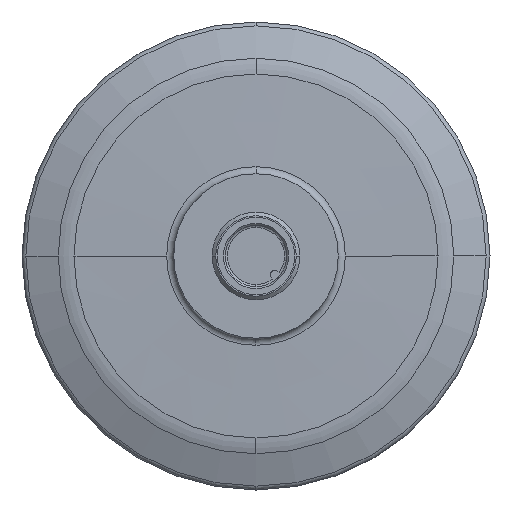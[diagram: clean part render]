
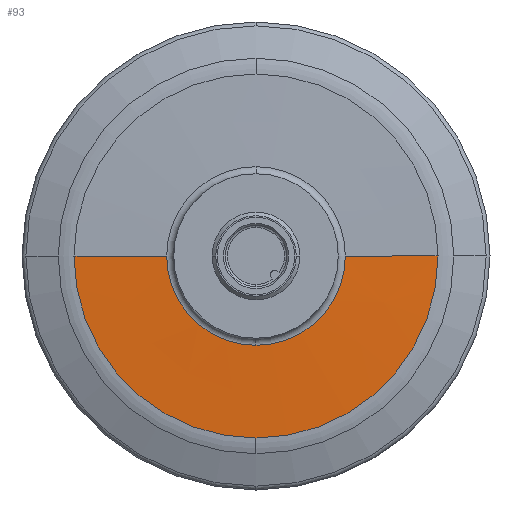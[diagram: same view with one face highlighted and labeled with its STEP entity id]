
A CAD part, left-side view. The second image highlights one B-rep face of the part: STEP entity #93.
In plain terms, the highlighted conical face has half-angle 88 degrees and reference radius 18.553 mm.
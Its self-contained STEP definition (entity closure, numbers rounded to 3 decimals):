
#93 = ADVANCED_FACE( '', ( #188 ), #189, .T. );
#188 = FACE_OUTER_BOUND( '', #347, .T. );
#189 = CONICAL_SURFACE( '', #348, 18.554, 1.536 );
#347 = EDGE_LOOP( '', ( #613, #614, #615, #616, #617, #618 ) );
#348 = AXIS2_PLACEMENT_3D( '', #619, #620, #621 );
#613 = ORIENTED_EDGE( '', *, *, #1166, .F. );
#614 = ORIENTED_EDGE( '', *, *, #1167, .T. );
#615 = ORIENTED_EDGE( '', *, *, #1168, .T. );
#616 = ORIENTED_EDGE( '', *, *, #1169, .F. );
#617 = ORIENTED_EDGE( '', *, *, #1162, .F. );
#618 = ORIENTED_EDGE( '', *, *, #1170, .F. );
#619 = CARTESIAN_POINT( '', ( 18.706, 0., 0. ) );
#620 = DIRECTION( '', ( 1., 0., 0. ) );
#621 = DIRECTION( '', ( 0., 1., 0. ) );
#1162 = EDGE_CURVE( '', #1416, #1418, #1419, .T. );
#1166 = EDGE_CURVE( '', #1425, #1426, #1427, .T. );
#1167 = EDGE_CURVE( '', #1425, #1428, #1429, .T. );
#1168 = EDGE_CURVE( '', #1428, #1430, #1431, .T. );
#1169 = EDGE_CURVE( '', #1418, #1430, #1432, .T. );
#1170 = EDGE_CURVE( '', #1426, #1416, #1433, .T. );
#1416 = VERTEX_POINT( '', #1783 );
#1418 = VERTEX_POINT( '', #1785 );
#1419 = CIRCLE( '', #1786, 12.215 );
#1425 = VERTEX_POINT( '', #1792 );
#1426 = VERTEX_POINT( '', #1793 );
#1427 = LINE( '', #1794, #1795 );
#1428 = VERTEX_POINT( '', #1796 );
#1429 = CIRCLE( '', #1797, 24.892 );
#1430 = VERTEX_POINT( '', #1798 );
#1431 = CIRCLE( '', #1799, 24.892 );
#1432 = LINE( '', #1800, #1801 );
#1433 = CIRCLE( '', #1802, 12.215 );
#1783 = CARTESIAN_POINT( '', ( 18.485, 0., -12.215 ) );
#1785 = CARTESIAN_POINT( '', ( 18.485, -12.215, 0. ) );
#1786 = AXIS2_PLACEMENT_3D( '', #2162, #2163, #2164 );
#1792 = CARTESIAN_POINT( '', ( 18.927, 24.892, 0. ) );
#1793 = CARTESIAN_POINT( '', ( 18.485, 12.215, 0. ) );
#1794 = CARTESIAN_POINT( '', ( 18.706, 18.554, 0. ) );
#1795 = VECTOR( '', #2174, 1. );
#1796 = CARTESIAN_POINT( '', ( 18.927, 0., -24.892 ) );
#1797 = AXIS2_PLACEMENT_3D( '', #2175, #2176, #2177 );
#1798 = CARTESIAN_POINT( '', ( 18.927, -24.892, 0. ) );
#1799 = AXIS2_PLACEMENT_3D( '', #2178, #2179, #2180 );
#1800 = CARTESIAN_POINT( '', ( 18.706, -18.554, 0. ) );
#1801 = VECTOR( '', #2181, 1. );
#1802 = AXIS2_PLACEMENT_3D( '', #2182, #2183, #2184 );
#2162 = CARTESIAN_POINT( '', ( 18.485, 0., 0. ) );
#2163 = DIRECTION( '', ( -1., 0., 0. ) );
#2164 = DIRECTION( '', ( 0., 1., 0. ) );
#2174 = DIRECTION( '', ( -0.035, -0.999, 0. ) );
#2175 = CARTESIAN_POINT( '', ( 18.927, 0., 0. ) );
#2176 = DIRECTION( '', ( -1., 0., 0. ) );
#2177 = DIRECTION( '', ( 0., 1., 0. ) );
#2178 = CARTESIAN_POINT( '', ( 18.927, 0., 0. ) );
#2179 = DIRECTION( '', ( -1., 0., 0. ) );
#2180 = DIRECTION( '', ( 0., 1., 0. ) );
#2181 = DIRECTION( '', ( 0.035, -0.999, 0. ) );
#2182 = CARTESIAN_POINT( '', ( 18.485, 0., 0. ) );
#2183 = DIRECTION( '', ( -1., 0., 0. ) );
#2184 = DIRECTION( '', ( 0., 1., 0. ) );
